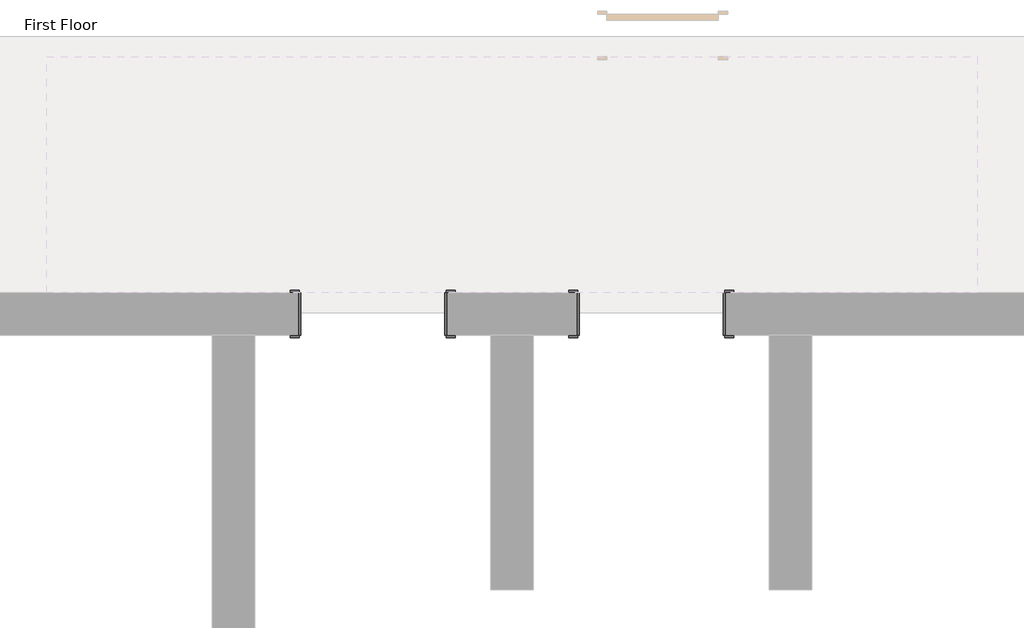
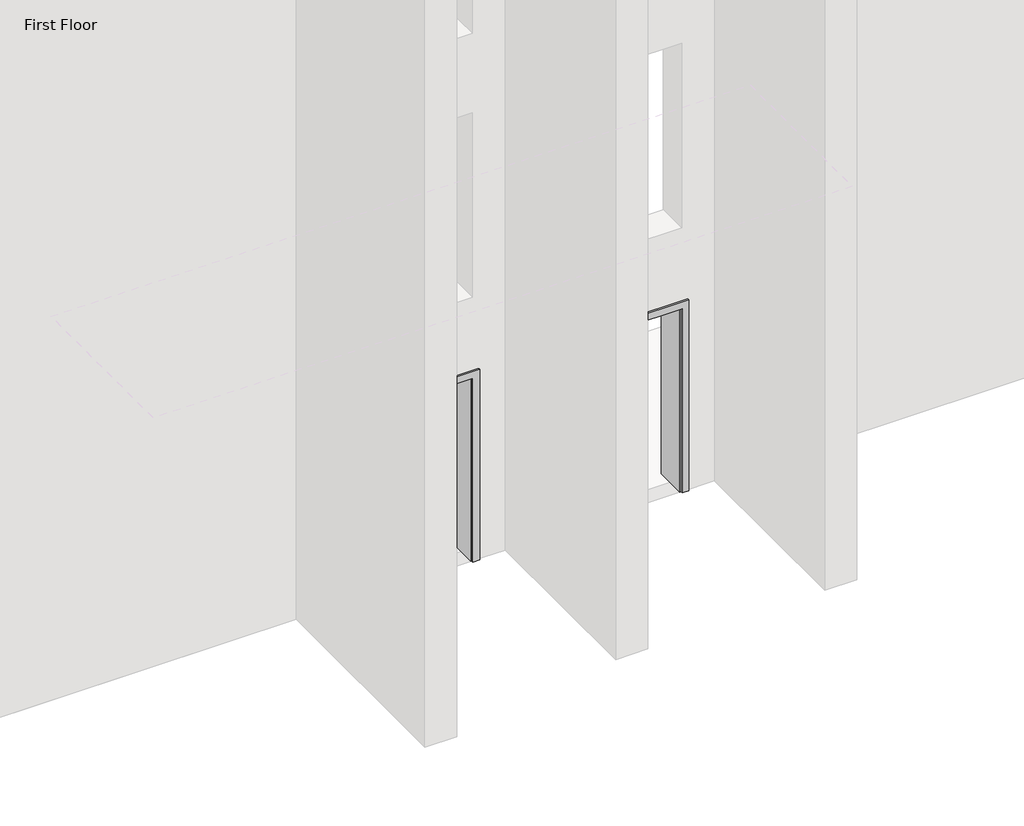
# One storey, part 4 of 4: 2 proxies.
"""IFC4 building model written with IfcOpenShell, lengths in millimetres."""

from ifc_helpers import new_model, si_unit, origin, place, context, project, spatial, transform, mapped, element, save
from components import m_passage_opening_cased_1220_x_2134mm_f04423fa

model = new_model("IFC4")

# Units and contexts
model_context = context("Model", 3, world=origin())
ifc_project = project(units=[si_unit("LENGTHUNIT", "METRE", prefix="MILLI")], contexts=[model_context])

# Site, building, storey
site = spatial("IfcSite", under=ifc_project)
building = spatial("IfcBuilding", under=site)
storey = spatial("IfcBuildingStorey", under=building, Name="First Floor", Elevation=0.0)

# Proxies
placement = place(None, origin())
m_passage_opening_cased_1220_x_2134mm_shape = m_passage_opening_cased_1220_x_2134mm_f04423fa(model_context)
element("IfcBuildingElementProxy", 1, Name="M_Passage Opening-Cased : 1220 x 2134mm", ObjectType="M_Passage Opening-Cased : 1220 x 2134mm", at=placement, inside=storey, context=model_context, shape_type="MappedRepresentation", body=[
    mapped(m_passage_opening_cased_1220_x_2134mm_shape, transform((3529.9038, -3050.7443399, 0.0), x_axis=(-1.0, 0.0, 0.0), y_axis=(0.0, -1.0, 0.0), z_axis=(0.0, 0.0, 1.0))),
])
element("IfcBuildingElementProxy", 2, Name="M_Passage Opening-Cased : 1220 x 2134mm", ObjectType="M_Passage Opening-Cased : 1220 x 2134mm", at=placement, inside=storey, context=model_context, shape_type="MappedRepresentation", body=[
    mapped(m_passage_opening_cased_1220_x_2134mm_shape, transform((1260.2811134, -3050.7443399, 0.0), x_axis=(1.0, 0.0, 0.0), y_axis=(0.0, 1.0, 0.0), z_axis=(0.0, 0.0, 1.0))),
])

save(model, "model.ifc")
